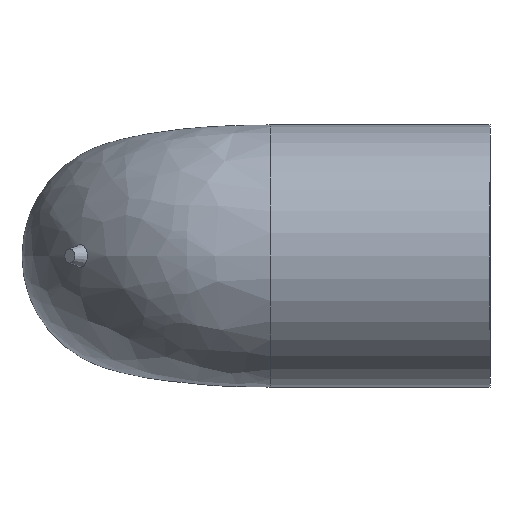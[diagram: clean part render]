
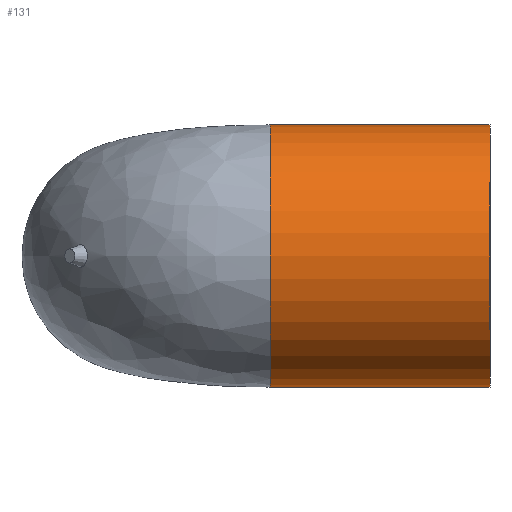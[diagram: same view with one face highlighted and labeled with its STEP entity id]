
A CAD part, left-side view. The second image highlights one B-rep face of the part: STEP entity #131.
In plain terms, the highlighted cylindrical face has radius 28 mm (diameter 56 mm), a full revolution.
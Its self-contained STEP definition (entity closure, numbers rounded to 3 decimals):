
#18=CYLINDRICAL_SURFACE($,#150,28.);
#26=FACE_BOUND($,#60,.T.);
#38=CIRCLE($,#149,28.);
#39=CIRCLE($,#151,28.);
#47=FACE_OUTER_BOUND($,#59,.T.);
#59=EDGE_LOOP($,(#117));
#60=EDGE_LOOP($,(#118));
#79=VERTEX_POINT($,#953);
#80=VERTEX_POINT($,#962);
#93=EDGE_CURVE($,#79,#79,#38,.T.);
#94=EDGE_CURVE($,#80,#80,#39,.T.);
#117=ORIENTED_EDGE($,*,*,#94,.F.);
#118=ORIENTED_EDGE($,*,*,#93,.T.);
#131=ADVANCED_FACE($,(#47,#26),#18,.T.);
#149=AXIS2_PLACEMENT_3D($,#960,#180,#181);
#150=AXIS2_PLACEMENT_3D($,#961,#182,#183);
#151=AXIS2_PLACEMENT_3D($,#963,#184,#185);
#180=DIRECTION('center_axis',(0.,-1.,0.));
#181=DIRECTION('ref_axis',(1.,0.,0.));
#182=DIRECTION('center_axis',(0.,1.,0.));
#183=DIRECTION('ref_axis',(1.,0.,0.));
#184=DIRECTION('center_axis',(0.,-1.,0.));
#185=DIRECTION('ref_axis',(1.,0.,0.));
#953=CARTESIAN_POINT('',(-28.,47.,0.));
#960=CARTESIAN_POINT('Origin',(0.,47.,0.));
#961=CARTESIAN_POINT('Origin',(0.,0.,0.));
#962=CARTESIAN_POINT('',(-28.,0.,0.));
#963=CARTESIAN_POINT('Origin',(0.,0.,0.));
